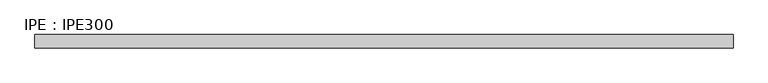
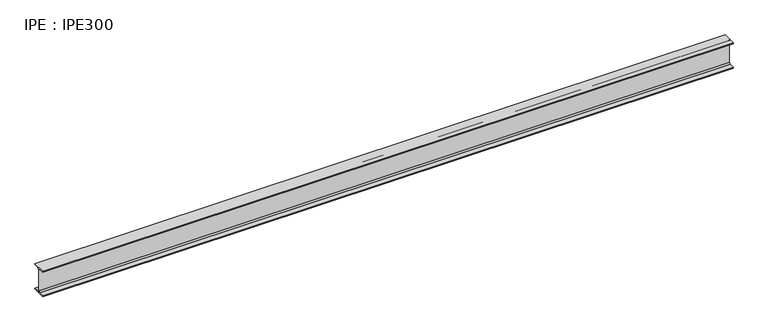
"""IFC4 building model written with IfcOpenShell, lengths in millimetres: beam geometry, IPE : IPE300."""

import ifcopenshell
import ifcopenshell.guid

model = None  # the IFC model being written
_history = None  # IfcOwnerHistory: only IFC2X3 demands one
_inside = {}  # id of a spatial element -> (the spatial element, [elements in it])
_under = {}  # id of a project, library or spatial element -> (it, [spatial elements below it])
_declared = {}  # id of a project -> (the project, [libraries it declares])
_typed = {}  # id of a type object -> (the type object, [elements of that type])
_made_of = {}  # id of a material, layer set ... -> (it, [elements and type objects made of it])


def new_model(schema):
    """Start an empty IFC model of exactly this schema.

    Asked for "IFC4X3", IfcOpenShell would pick the latest addendum, in which some entities
    have other attributes; the version numbers below select the first issue.
    IFC2X3 requires an IfcOwnerHistory on every rooted entity: one is made here for all.
    """
    global model, _history
    if schema == "IFC4X3":
        model = ifcopenshell.file(schema_version=(4, 3, 0, 0))
    else:
        model = ifcopenshell.file(schema=schema)
    _inside.clear()
    _under.clear()
    _declared.clear()
    _typed.clear()
    _made_of.clear()
    _history = None
    if model.schema == "IFC2X3":
        org = make("IfcOrganization", Name="unknown")
        user = make(
            "IfcPersonAndOrganization",
            ThePerson=make("IfcPerson", FamilyName="unknown"),
            TheOrganization=org,
        )
        app = make(
            "IfcApplication",
            ApplicationDeveloper=org,
            Version="unknown",
            ApplicationFullName="unknown",
            ApplicationIdentifier="unknown",
        )
        _history = make(
            "IfcOwnerHistory",
            OwningUser=user,
            OwningApplication=app,
            ChangeAction="ADDED",
            CreationDate=0,
        )
    return model


def make(cls, **values):
    """One entity of the class cls with the attributes given. An attribute that is None is left unset."""
    return model.create_entity(
        cls, **{name: value for name, value in values.items() if value is not None}
    )


def rooted(cls, **values):
    """An entity with a GlobalId (a new one), such as an element, a storey or a relation."""
    return make(cls, GlobalId=ifcopenshell.guid.new(), OwnerHistory=_history, **values)


def si_unit(unit_type, name, prefix=None):
    """IfcSIUnit, for example si_unit("LENGTHUNIT", "METRE", prefix="MILLI")."""
    return make("IfcSIUnit", UnitType=unit_type, Prefix=prefix, Name=name)


def assignment(units):
    """IfcUnitAssignment: the units of a project."""
    return None if units is None else make("IfcUnitAssignment", Units=units)


def point(xyz):
    """IfcCartesianPoint."""
    return None if xyz is None else make("IfcCartesianPoint", Coordinates=xyz)


def direction(xyz):
    """IfcDirection."""
    return None if xyz is None else make("IfcDirection", DirectionRatios=xyz)


def frame(location, z_axis=None, x_axis=None):
    """IfcAxis2Placement3D, a coordinate frame: its origin and axes. An axis left out is left unset."""
    return make(
        "IfcAxis2Placement3D",
        Location=point(location),
        Axis=direction(z_axis),
        RefDirection=direction(x_axis),
    )


def frame_2d(location, x_axis=None):
    """IfcAxis2Placement2D, a coordinate frame in the plane: its origin and x axis."""
    return make(
        "IfcAxis2Placement2D", Location=point(location), RefDirection=direction(x_axis)
    )


def origin():
    """The frame at (0, 0, 0) with its axes left unset."""
    return frame((0.0, 0.0, 0.0))


def place(relative_to, where):
    """IfcLocalPlacement: puts the frame where relative to a parent placement (None: the world)."""
    return make(
        "IfcLocalPlacement", PlacementRelTo=relative_to, RelativePlacement=where
    )


def context(
    kind, dimensions, precision=None, world=None, true_north=None, identifier=None
):
    """IfcGeometricRepresentationContext, for example the 3D "Model" context."""
    return make(
        "IfcGeometricRepresentationContext",
        ContextIdentifier=identifier,
        ContextType=kind,
        CoordinateSpaceDimension=dimensions,
        Precision=precision,
        WorldCoordinateSystem=world,
        TrueNorth=true_north,
    )


def project(units=None, contexts=None):
    """IfcProject with its units and contexts."""
    return rooted(
        "IfcProject",
        Name="project",
        RepresentationContexts=contexts,
        UnitsInContext=assignment(units),
    )


def spatial(cls, under=None, at=None, **own):
    """A site, building, storey or space (cls), placed at a placement, below another one or the project."""
    s = rooted(cls, ObjectPlacement=at, **own)
    if under is not None:
        _under.setdefault(under.id(), (under, []))[1].append(s)
    return s


def polyline(points):
    """IfcPolyline through the points."""
    return make("IfcPolyline", Points=[point(p) for p in points])


def circle_curve(where, radius):
    """IfcCircle in the frame where."""
    return make("IfcCircle", Position=where, Radius=radius)


def trimmed(basis, trim1, trim2, sense, master):
    """IfcTrimmedCurve: the piece of a basis curve between two trims."""
    return make(
        "IfcTrimmedCurve",
        BasisCurve=basis,
        Trim1=trim1,
        Trim2=trim2,
        SenseAgreement=sense,
        MasterRepresentation=master,
    )


def segment(curve, same_sense, transition):
    """IfcCompositeCurveSegment."""
    return make(
        "IfcCompositeCurveSegment",
        Transition=transition,
        SameSense=same_sense,
        ParentCurve=curve,
    )


def composite_curve(segments, self_intersect=None):
    """IfcCompositeCurve: segments joined end to end."""
    return make("IfcCompositeCurve", Segments=segments, SelfIntersect=self_intersect)


def outline(outer, holes=None, kind="AREA"):
    """IfcArbitraryClosedProfileDef: a profile drawn as a closed curve; with holes, ...WithVoids."""
    if holes is None:
        return make("IfcArbitraryClosedProfileDef", ProfileType=kind, OuterCurve=outer)
    return make(
        "IfcArbitraryProfileDefWithVoids",
        ProfileType=kind,
        OuterCurve=outer,
        InnerCurves=holes,
    )


def extrude(swept, where, along, depth):
    """IfcExtrudedAreaSolid: the profile swept, set in the frame where, extruded along a direction by depth."""
    return make(
        "IfcExtrudedAreaSolid",
        SweptArea=swept,
        Position=where,
        ExtrudedDirection=direction(along),
        Depth=depth,
    )


def shape(context_of_items, identifier, shape_type, items):
    """IfcShapeRepresentation: the items that make up one representation, for example the "Body"."""
    return make(
        "IfcShapeRepresentation",
        ContextOfItems=context_of_items,
        RepresentationIdentifier=identifier,
        RepresentationType=shape_type,
        Items=items,
    )


def source(mapping_origin, context_of_items, identifier, shape_type, items):
    """IfcRepresentationMap: a shape defined once, which mapped items show again and again."""
    return make(
        "IfcRepresentationMap",
        MappingOrigin=mapping_origin,
        MappedRepresentation=shape(context_of_items, identifier, shape_type, items),
    )


def transform(
    local_origin,
    x_axis=None,
    y_axis=None,
    z_axis=None,
    scale=None,
    scale2=None,
    scale3=None,
    uniform=True,
):
    """IfcCartesianTransformationOperator3D, or its non-uniform kind. x_axis, y_axis, z_axis: its Axis1, 2, 3."""
    if uniform:
        return make(
            "IfcCartesianTransformationOperator3D",
            Axis1=direction(x_axis),
            Axis2=direction(y_axis),
            LocalOrigin=point(local_origin),
            Scale=scale,
            Axis3=direction(z_axis),
        )
    return make(
        "IfcCartesianTransformationOperator3DnonUniform",
        Axis1=direction(x_axis),
        Axis2=direction(y_axis),
        LocalOrigin=point(local_origin),
        Scale=scale,
        Axis3=direction(z_axis),
        Scale2=scale2,
        Scale3=scale3,
    )


def mapped(mapping_source, mapping_target):
    """IfcMappedItem: shows the shape of a source again, moved by a transform."""
    return make(
        "IfcMappedItem", MappingSource=mapping_source, MappingTarget=mapping_target
    )


def made_of(thing, what):
    """Note that an element or type object is made of a material, layer set ...; save() writes the relation."""
    if what is not None:
        _made_of.setdefault(what.id(), (what, []))[1].append(thing)
    return thing


def element(
    cls,
    number,
    at=None,
    inside=None,
    cuts=None,
    type_object=None,
    material=None,
    context=None,
    identifier="Body",
    shape_type=None,
    held_by="IfcProductDefinitionShape",
    body=None,
    shapes=None,
    **own,
):
    """One element of the class cls, such as IfcWall. Its Tag is "e" and its number.

    at: its placement. inside: the storey or other place that contains it. cuts: it is an
    opening in that element (IfcRelVoidsElement). A single representation is given by context,
    identifier, shape_type and body (its items); several are given by shapes. held_by: the class
    of the entity that holds the representations. save() writes the other relations.
    """
    e = rooted(cls, Tag="e%d" % number, ObjectPlacement=at, **own)
    if body is not None:
        shapes = [shape(context, identifier, shape_type, body)]
    if shapes is not None:
        e.Representation = make(held_by, Representations=shapes)
    if inside is not None:
        _inside.setdefault(inside.id(), (inside, []))[1].append(e)
    if cuts is not None:
        rooted(
            "IfcRelVoidsElement", RelatingBuildingElement=cuts, RelatedOpeningElement=e
        )
    if type_object is not None:
        _typed.setdefault(type_object.id(), (type_object, []))[1].append(e)
    return made_of(e, material)


def aggregate(whole, parts):
    """IfcRelAggregates: a whole, such as a stair, and the parts it consists of."""
    return rooted("IfcRelAggregates", RelatingObject=whole, RelatedObjects=parts)


def save(model, path):
    """Write the relations noted so far, then the file.

    IfcRelAggregates (storeys below a building ...), IfcRelContainedInSpatialStructure (elements
    in a storey), IfcRelDefinesByType, IfcRelAssociatesMaterial and IfcRelDeclares: one each for
    every whole, place, type object, material and project.
    """
    for whole, parts in _under.values():
        aggregate(whole, parts)
    for where, things in _inside.values():
        rooted(
            "IfcRelContainedInSpatialStructure",
            RelatedElements=things,
            RelatingStructure=where,
        )
    for kind, things in _typed.values():
        rooted("IfcRelDefinesByType", RelatedObjects=things, RelatingType=kind)
    for what, things in _made_of.values():
        rooted("IfcRelAssociatesMaterial", RelatedObjects=things, RelatingMaterial=what)
    for by, libraries in _declared.values():
        rooted("IfcRelDeclares", RelatingContext=by, RelatedDefinitions=libraries)
    model.write(path)


def ipe_ipe300_009aff86(model_context):
    return source(origin(), model_context, "Body", "SweptSolid", [
        extrude(outline(composite_curve([segment(polyline([(75.0, -139.3), (75.0, -150.0), (-75.0, -150.0), (-75.0, -139.3), (-18.55, -139.3)]), True, "CONTINUOUS"), segment(trimmed(circle_curve(frame_2d((-18.55, -124.3)), 15.0), [point((-18.55, -139.3))], [point((-3.55, -124.3))], True, "CARTESIAN"), True, "CONTINUOUS"), segment(polyline([(-3.55, -124.3), (-3.55, 124.3)]), True, "CONTINUOUS"), segment(trimmed(circle_curve(frame_2d((-18.55, 124.3)), 15.0), [point((-3.55, 124.3))], [point((-18.55, 139.3))], True, "CARTESIAN"), True, "CONTINUOUS"), segment(polyline([(-18.55, 139.3), (-75.0, 139.3), (-75.0, 150.0), (75.0, 150.0), (75.0, 139.3), (18.55, 139.3)]), True, "CONTINUOUS"), segment(trimmed(circle_curve(frame_2d((18.55, 124.3)), 15.0), [point((18.55, 139.3))], [point((3.55, 124.3))], True, "CARTESIAN"), True, "CONTINUOUS"), segment(polyline([(3.55, 124.3), (3.55, -124.3)]), True, "CONTINUOUS"), segment(trimmed(circle_curve(frame_2d((18.55, -124.3)), 15.0), [point((3.55, -124.3))], [point((18.55, -139.3))], True, "CARTESIAN"), True, "CONTINUOUS"), segment(polyline([(18.55, -139.3), (75.0, -139.3)]), True, "CONTINUOUS")], self_intersect=False)), frame((-3852.3, 0.0, 0.0), z_axis=(1.0, 0.0, 0.0), x_axis=(0.0, 1.0, 0.0)), (0.0, 0.0, 1.0), 7714.6),
    ])


if __name__ == "__main__":
    model = new_model("IFC4")
    model_context = context("Model", 3, world=origin())
    ifc_project = project(units=[si_unit("LENGTHUNIT", "METRE", prefix="MILLI")], contexts=[model_context])
    site = spatial("IfcSite", under=ifc_project)
    building = spatial("IfcBuilding", under=site)
    placement = place(None, origin())
    ipe_ipe300_shape = ipe_ipe300_009aff86(model_context)
    element("IfcBeam", 1, ObjectType="IPE : IPE300", at=placement, inside=building, context=model_context, shape_type="MappedRepresentation", body=[
        mapped(ipe_ipe300_shape, transform((0.0, 0.0, 0.0), x_axis=(1.0, 0.0, 0.0), y_axis=(0.0, 1.0, 0.0), z_axis=(0.0, 0.0, 1.0))),
    ])
    save(model, "model.ifc")
